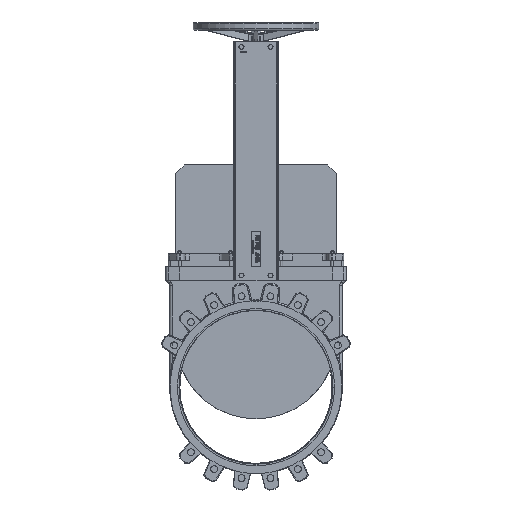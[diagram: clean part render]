
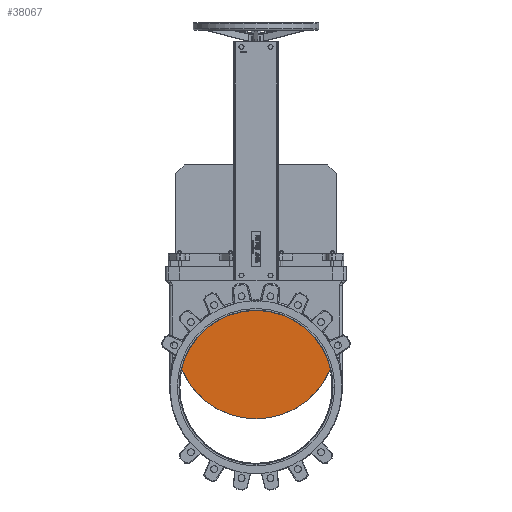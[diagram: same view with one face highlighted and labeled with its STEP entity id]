
A CAD part, top view. The second image highlights one B-rep face of the part: STEP entity #38067.
In plain terms, the highlighted planar face has unit normal (0, 0, 1).
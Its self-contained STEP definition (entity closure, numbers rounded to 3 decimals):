
#38042=CARTESIAN_POINT('',(0.,375.5,7.5));
#38043=DIRECTION('',(0.0,0.0,1.0));
#38044=DIRECTION('',(1.0,0.0,0.0));
#38045=AXIS2_PLACEMENT_3D('',#38042,#38043,#38044);
#38046=PLANE('',#38045);
#38047=CARTESIAN_POINT('',(-293.707,72.407,7.5));
#38048=VERTEX_POINT('',#38047);
#38049=CARTESIAN_POINT('',(293.707,72.407,7.5));
#38050=VERTEX_POINT('',#38049);
#38051=CARTESIAN_POINT('',(0.0,0.0,7.5));
#38052=DIRECTION('',(0.0,0.0,-1.0));
#38053=DIRECTION('',(-1.0,0.0,0.0));
#38054=AXIS2_PLACEMENT_3D('',#38051,#38052,#38053);
#38055=CIRCLE('',#38054,302.5);
#38056=EDGE_CURVE('',#38048,#38050,#38055,.T.);
#38057=ORIENTED_EDGE('',*,*,#38056,.F.);
#38058=CARTESIAN_POINT('',(0.,193.,7.5));
#38059=DIRECTION('',(0.0,0.0,-1.0));
#38060=DIRECTION('',(-0.707,-0.707,0.0));
#38061=AXIS2_PLACEMENT_3D('',#38058,#38059,#38060);
#38062=CIRCLE('',#38061,317.5);
#38063=EDGE_CURVE('',#38050,#38048,#38062,.T.);
#38064=ORIENTED_EDGE('',*,*,#38063,.F.);
#38065=EDGE_LOOP('',(#38057,#38064));
#38066=FACE_OUTER_BOUND('',#38065,.T.);
#38067=ADVANCED_FACE('',(#38066),#38046,.T.);
